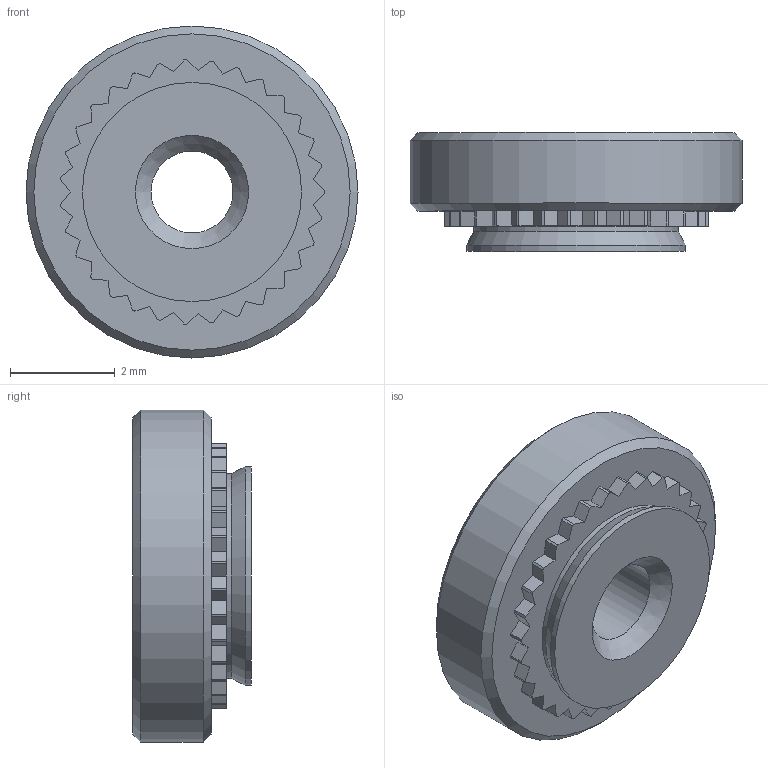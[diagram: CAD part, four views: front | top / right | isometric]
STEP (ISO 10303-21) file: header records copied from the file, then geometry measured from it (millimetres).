
FILE_DESCRIPTION(/* description */ (''),/* implementation_level */ '2;1');
FILE_NAME(/* name */ 'C:\Users\keval.kumar\Desktop\Fastit\Clinch nut\M2\Clinch Nut_M2_0.stp',/* time_stamp */ '2024-03-14T09:26:21+06:00',/* author */ ('keval.kumar'),/* organization */ (''),/* preprocessor_version */ 'ST-DEVELOPER v18.1',/* originating_system */ 'Autodesk Inventor 2022',/* authorisation */ '');
FILE_SCHEMA (('AUTOMOTIVE_DESIGN { 1 0 10303 214 3 1 1 }'));
Length unit declared in the file: millimetre
Products named in the file (1): Clinch Nut_M3_0
Bounding box: 6.35 x 2.27 x 6.35 mm (x, y, z)
Volume: 53.8 mm3; surface area: 109.7 mm2
Topology: 1 solids, 1 shells, 106 faces, 303 edges, 201 vertices
Faces by surface type: plane 66, cylinder 35, cone 5
Full cylindrical faces by diameter (mm): 1.567 x1, 3.91 x1, 4.19 x1, 6.35 x1
Entity records: 3507 total; most frequent: CARTESIAN_POINT 611, ORIENTED_EDGE 606, DIRECTION 594, EDGE_CURVE 303, LINE 226, VECTOR 226, VERTEX_POINT 201, AXIS2_PLACEMENT_3D 184
